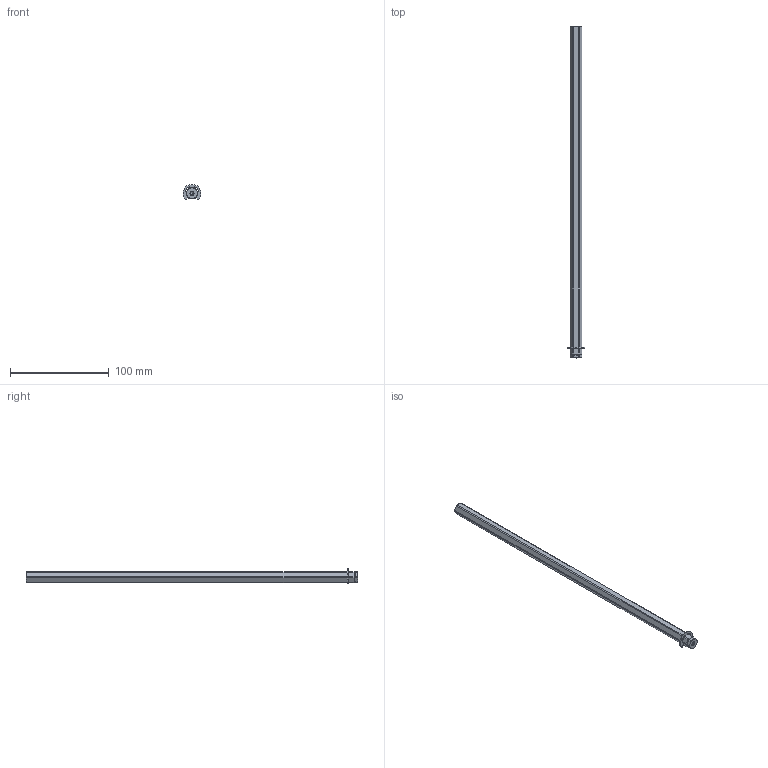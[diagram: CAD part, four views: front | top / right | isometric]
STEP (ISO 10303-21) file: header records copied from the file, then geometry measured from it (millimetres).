
FILE_DESCRIPTION(/* description */ (''),/* implementation_level */ '2;1');
FILE_NAME(/* name */ '2109-4012-3360.step',/* time_stamp */ '2026-06-23T16:16:56-05:00',/* author */ (''),/* organization */ (''),/* preprocessor_version */ 'ST-DEVELOPER v20.1',/* originating_system */ 'Autodesk Translation Framework v15.8.0.0',/* authorisation */ '');
FILE_SCHEMA (('AUTOMOTIVE_DESIGN { 1 0 10303 214 3 1 1 }'));
Length unit declared in the file: millimetre
Products named in the file (2): 2109-4012-3360 (Slot 1); 2824-0002-0091
Assembly tree (1 placements, depth 2):
  2109-4012-3360 (Slot 1)
    2824-0002-0091
Bounding box: 17.97 x 336 x 15.35 mm (x, y, z)
Volume: 34490.9 mm3; surface area: 13503.8 mm2
Topology: 2 solids, 2 shells, 164 faces, 456 edges, 300 vertices
Faces by surface type: cylinder 110, plane 34, cone 16, bspline 4
Full cylindrical faces by diameter (mm): 3.3 x34, 4 x32, 9 x2
Entity records: 14176 total; most frequent: CARTESIAN_POINT 10207, ORIENTED_EDGE 908, DIRECTION 706, EDGE_CURVE 454, VERTEX_POINT 300, AXIS2_PLACEMENT_3D 267, LINE 172, VECTOR 172
